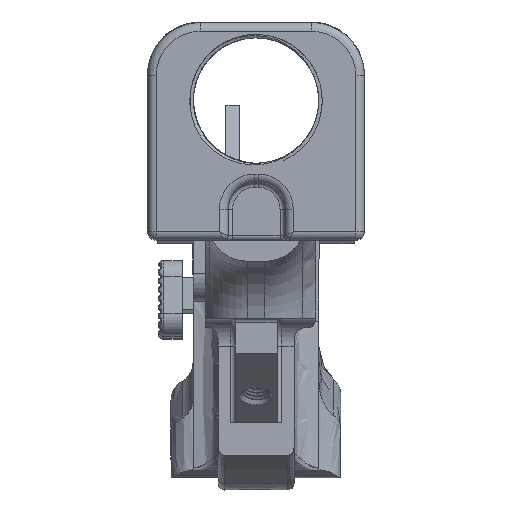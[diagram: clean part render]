
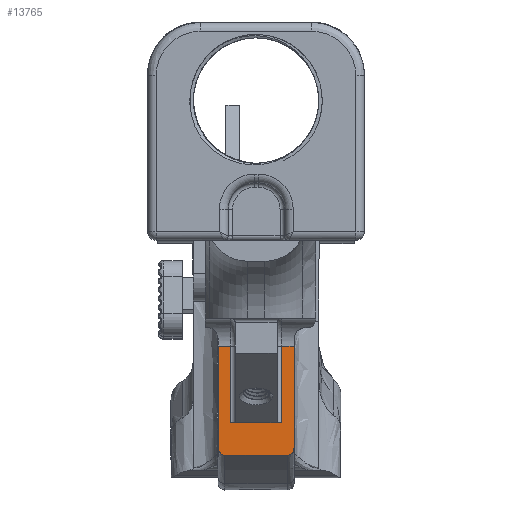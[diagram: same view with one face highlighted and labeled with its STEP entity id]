
A CAD part, front view. The second image highlights one B-rep face of the part: STEP entity #13765.
In plain terms, the highlighted planar face has unit normal (0, -1, 0).
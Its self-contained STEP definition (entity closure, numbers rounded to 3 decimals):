
#302=PLANE('',#14796);
#804=LINE('',#28815,#1638);
#805=LINE('',#28852,#1639);
#807=LINE('',#28874,#1641);
#810=LINE('',#28884,#1644);
#902=LINE('',#32602,#1736);
#908=LINE('',#32644,#1742);
#909=LINE('',#32645,#1743);
#910=LINE('',#32646,#1744);
#1638=VECTOR('',#16531,10.);
#1639=VECTOR('',#16532,10.);
#1641=VECTOR('',#16538,9.525);
#1644=VECTOR('',#16549,10.);
#1736=VECTOR('',#16901,1.);
#1742=VECTOR('',#16931,10.);
#1743=VECTOR('',#16932,25.502);
#1744=VECTOR('',#16933,25.502);
#2828=FACE_OUTER_BOUND('',#3629,.T.);
#3629=EDGE_LOOP('',(#10873,#10874,#10875,#10876,#10877,#10878,#10879,#10880,
#10881,#10882));
#4377=B_SPLINE_CURVE_WITH_KNOTS('',3,(#28926,#28927,#28928,#28929,#28930,
#28931,#28932,#28933,#28934,#28935,#28936,#28937),.UNSPECIFIED.,.F.,.F.,
(4,2,2,2,2,4),(0.,0.047,0.099,0.163,
0.214,0.267),.UNSPECIFIED.);
#4436=B_SPLINE_CURVE_WITH_KNOTS('',3,(#30177,#30178,#30179,#30180,#30181,
#30182,#30183,#30184,#30185,#30186,#30187,#30188),.UNSPECIFIED.,.F.,.F.,
(4,2,2,2,2,4),(0.,0.09,0.167,0.225,
0.253,0.281),.UNSPECIFIED.);
#5936=VERTEX_POINT('',#28793);
#5943=VERTEX_POINT('',#28813);
#5944=VERTEX_POINT('',#28850);
#5945=VERTEX_POINT('',#28851);
#5947=VERTEX_POINT('',#28872);
#5950=VERTEX_POINT('',#28882);
#5951=VERTEX_POINT('',#28925);
#6014=VERTEX_POINT('',#30176);
#6159=VERTEX_POINT('',#32601);
#6167=VERTEX_POINT('',#32643);
#7588=EDGE_CURVE('',#5943,#5936,#804,.T.);
#7589=EDGE_CURVE('',#5944,#5945,#805,.T.);
#7594=EDGE_CURVE('',#5947,#5943,#807,.T.);
#7599=EDGE_CURVE('',#5950,#5947,#810,.T.);
#7600=EDGE_CURVE('',#5944,#5951,#4377,.T.);
#7697=EDGE_CURVE('',#6014,#5945,#4436,.T.);
#7917=EDGE_CURVE('',#6159,#5936,#902,.T.);
#7931=EDGE_CURVE('',#5950,#6167,#908,.T.);
#7932=EDGE_CURVE('',#6167,#5951,#909,.T.);
#7933=EDGE_CURVE('',#6159,#6014,#910,.T.);
#10873=ORIENTED_EDGE('',*,*,#7594,.F.);
#10874=ORIENTED_EDGE('',*,*,#7599,.F.);
#10875=ORIENTED_EDGE('',*,*,#7931,.T.);
#10876=ORIENTED_EDGE('',*,*,#7932,.T.);
#10877=ORIENTED_EDGE('',*,*,#7600,.F.);
#10878=ORIENTED_EDGE('',*,*,#7589,.T.);
#10879=ORIENTED_EDGE('',*,*,#7697,.F.);
#10880=ORIENTED_EDGE('',*,*,#7933,.F.);
#10881=ORIENTED_EDGE('',*,*,#7917,.T.);
#10882=ORIENTED_EDGE('',*,*,#7588,.F.);
#13765=ADVANCED_FACE('',(#2828),#302,.T.);
#14796=AXIS2_PLACEMENT_3D('',#32642,#16929,#16930);
#16531=DIRECTION('',(0.,0.,1.));
#16532=DIRECTION('',(1.,0.,0.));
#16538=DIRECTION('',(1.,0.,0.));
#16549=DIRECTION('',(0.,0.,-1.));
#16901=DIRECTION('',(-1.,0.,0.));
#16929=DIRECTION('center_axis',(0.,-1.,
0.));
#16930=DIRECTION('ref_axis',(0.,0.,1.));
#16931=DIRECTION('',(-1.,0.,0.));
#16932=DIRECTION('',(0.,0.,-1.));
#16933=DIRECTION('',(0.,0.,-1.));
#28793=CARTESIAN_POINT('',(28.053,-58.854,-18.29));
#28813=CARTESIAN_POINT('',(28.052,-58.854,-35.615));
#28815=CARTESIAN_POINT('',(28.053,-58.854,-14.742));
#28850=CARTESIAN_POINT('',(15.14,-58.86,-43.006));
#28851=CARTESIAN_POINT('',(29.438,-58.853,-43.007));
#28852=CARTESIAN_POINT('',(13.64,-58.86,-43.006));
#28872=CARTESIAN_POINT('',(16.527,-58.859,-35.615));
#28874=CARTESIAN_POINT('',(17.527,-58.859,-35.615));
#28882=CARTESIAN_POINT('',(16.528,-58.859,-18.29));
#28884=CARTESIAN_POINT('',(16.528,-58.859,-14.741));
#28925=CARTESIAN_POINT('',(13.64,-58.86,-41.116));
#28926=CARTESIAN_POINT('Ctrl Pts',(15.14,-58.86,-43.006));
#28927=CARTESIAN_POINT('Ctrl Pts',(14.983,-58.86,-43.006));
#28928=CARTESIAN_POINT('Ctrl Pts',(14.83,-58.86,-42.975));
#28929=CARTESIAN_POINT('Ctrl Pts',(14.523,-58.86,-42.852));
#28930=CARTESIAN_POINT('Ctrl Pts',(14.378,-58.86,-42.756));
#28931=CARTESIAN_POINT('Ctrl Pts',(14.094,-58.86,-42.493));
#28932=CARTESIAN_POINT('Ctrl Pts',(13.968,-58.86,-42.316));
#28933=CARTESIAN_POINT('Ctrl Pts',(13.795,-58.86,-41.972));
#28934=CARTESIAN_POINT('Ctrl Pts',(13.738,-58.86,-41.808));
#28935=CARTESIAN_POINT('Ctrl Pts',(13.66,-58.86,-41.469));
#28936=CARTESIAN_POINT('Ctrl Pts',(13.64,-58.86,-41.292));
#28937=CARTESIAN_POINT('Ctrl Pts',(13.64,-58.86,-41.116));
#30176=CARTESIAN_POINT('',(30.938,-58.853,-41.117));
#30177=CARTESIAN_POINT('Ctrl Pts',(30.938,-58.853,-41.117));
#30178=CARTESIAN_POINT('Ctrl Pts',(30.938,-58.853,-41.418));
#30179=CARTESIAN_POINT('Ctrl Pts',(30.881,-58.853,-41.72));
#30180=CARTESIAN_POINT('Ctrl Pts',(30.667,-58.853,-42.231));
#30181=CARTESIAN_POINT('Ctrl Pts',(30.531,-58.853,-42.437));
#30182=CARTESIAN_POINT('Ctrl Pts',(30.24,-58.853,-42.727));
#30183=CARTESIAN_POINT('Ctrl Pts',(30.093,-58.853,-42.831));
#30184=CARTESIAN_POINT('Ctrl Pts',(29.851,-58.853,-42.936));
#30185=CARTESIAN_POINT('Ctrl Pts',(29.77,-58.853,-42.963));
#30186=CARTESIAN_POINT('Ctrl Pts',(29.605,-58.853,-42.998));
#30187=CARTESIAN_POINT('Ctrl Pts',(29.522,-58.853,-43.007));
#30188=CARTESIAN_POINT('Ctrl Pts',(29.438,-58.853,-43.007));
#32601=CARTESIAN_POINT('',(30.939,-58.853,-18.291));
#32602=CARTESIAN_POINT('',(30.939,-58.853,-18.291));
#32642=CARTESIAN_POINT('Origin',(30.938,-58.853,-44.607));
#32643=CARTESIAN_POINT('',(13.641,-58.86,-18.29));
#32644=CARTESIAN_POINT('',(10.781,-58.861,-18.29));
#32645=CARTESIAN_POINT('',(13.641,-58.86,-18.343));
#32646=CARTESIAN_POINT('',(30.939,-58.853,-18.343));
